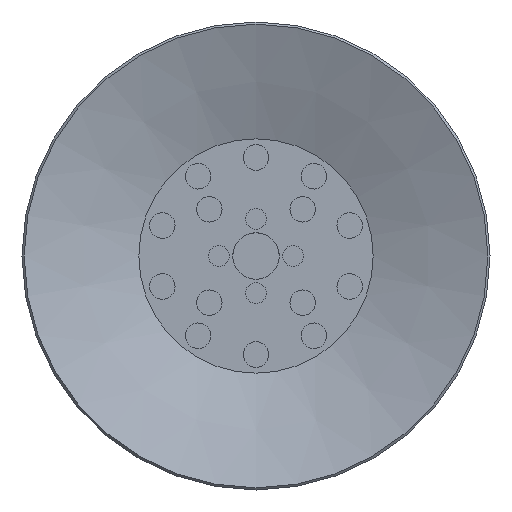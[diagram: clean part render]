
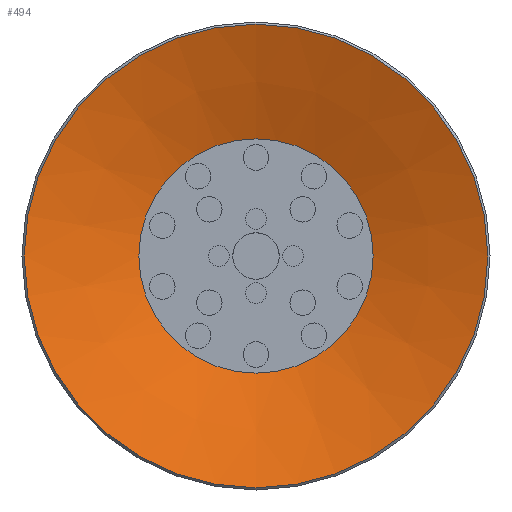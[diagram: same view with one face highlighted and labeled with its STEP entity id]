
A CAD part, front view. The second image highlights one B-rep face of the part: STEP entity #494.
In plain terms, the highlighted conical face has half-angle 70 degrees and reference radius 10 mm.
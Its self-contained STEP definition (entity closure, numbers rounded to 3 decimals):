
#494=ADVANCED_FACE('',(#780,#781),#782,.F.);
#780=FACE_BOUND('',#1175,.T.);
#781=FACE_OUTER_BOUND('',#1176,.T.);
#782=CONICAL_SURFACE('',#1177,10.0,1.222);
#1175=EDGE_LOOP('',(#2011));
#1176=EDGE_LOOP('',(#2012));
#1177=AXIS2_PLACEMENT_3D('',#2013,#2014,#2015);
#2011=ORIENTED_EDGE('',*,*,#2476,.T.);
#2012=ORIENTED_EDGE('',*,*,#2477,.F.);
#2013=CARTESIAN_POINT('',(0.0,0.,0.));
#2014=DIRECTION('',(0.0,0.,-1.0));
#2015=DIRECTION('',(0.0,1.0,0.));
#2476=EDGE_CURVE('',#2849,#2849,#2850,.T.);
#2477=EDGE_CURVE('',#2851,#2851,#2852,.T.);
#2849=VERTEX_POINT('',#3701);
#2850=CIRCLE('',#3702,5.055);
#2851=VERTEX_POINT('',#3703);
#2852=CIRCLE('',#3704,10.0);
#3701=CARTESIAN_POINT('',(0.0,-5.055,1.8));
#3702=AXIS2_PLACEMENT_3D('',#4067,#4068,#4069);
#3703=CARTESIAN_POINT('',(0.0,-10.0,0.));
#3704=AXIS2_PLACEMENT_3D('',#4070,#4071,#4072);
#4067=CARTESIAN_POINT('',(0.0,0.,1.8));
#4068=DIRECTION('',(0.0,0.,1.0));
#4069=DIRECTION('',(0.0,-1.0,0.));
#4070=CARTESIAN_POINT('',(0.0,0.,0.));
#4071=DIRECTION('',(0.0,0.,1.0));
#4072=DIRECTION('',(0.0,-1.0,0.));
